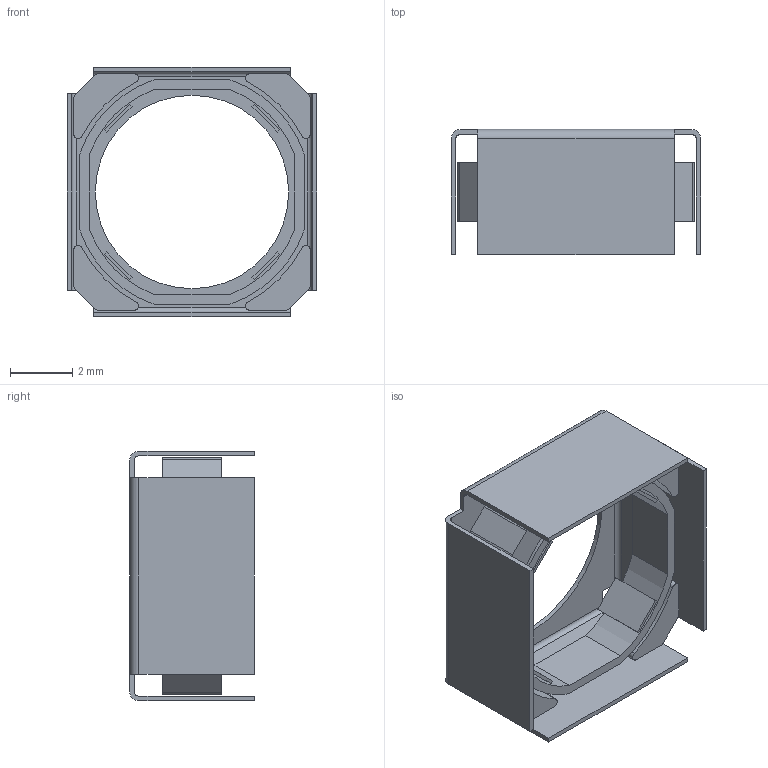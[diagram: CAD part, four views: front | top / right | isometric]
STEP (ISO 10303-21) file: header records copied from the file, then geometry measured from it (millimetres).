
FILE_DESCRIPTION(('FreeCAD Model'),'2;1');
FILE_NAME('D:/Gitae_Work/DoSA-Open_3D_Work/AFA.step', '2019-11-19T21:48:49',('Author'),(''), 'Open CASCADE STEP processor 7.3','FreeCAD','Unknown');
FILE_SCHEMA(('AUTOMOTIVE_DESIGN { 1 0 10303 214 1 1 1 1 }'));
Length unit declared in the file: millimetre
Products named in the file (10): Case; Coil; Magnet_Left_Rear; Magnet_Left_Front; Magnet_Right_Rear; Magnet_Right_Front; Plate_Left_Rear; Plate_Left_Front; Plate_Right_Rear; Plate_Right_Front
Bounding box: 8 x 4 x 8 mm (x, y, z)
Volume: 45.6 mm3; surface area: 435.4 mm2
Topology: 10 solids, 10 shells, 114 faces, 282 edges, 188 vertices
Faces by surface type: plane 76, cylinder 38
Entity records: 7395 total; most frequent: CARTESIAN_POINT 1461, DIRECTION 1100, LINE 694, VECTOR 694, ORIENTED_EDGE 564, PCURVE 564, DEFINITIONAL_REPRESENTATION 564, EDGE_CURVE 282
